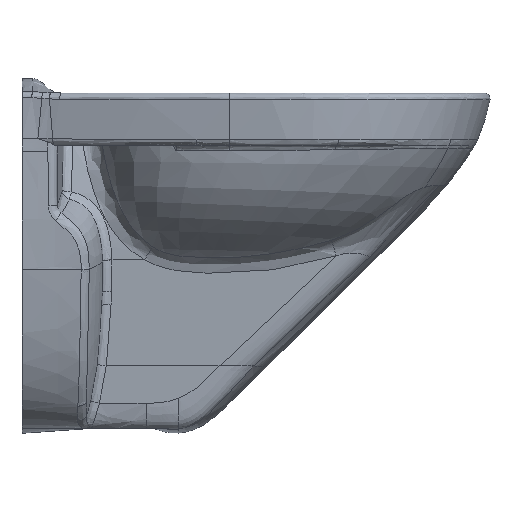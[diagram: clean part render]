
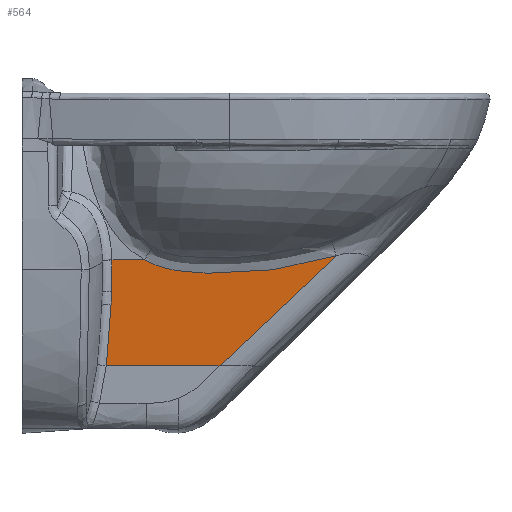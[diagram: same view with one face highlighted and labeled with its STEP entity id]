
A CAD part, left-side view. The second image highlights one B-rep face of the part: STEP entity #564.
In plain terms, the highlighted free-form (B-spline) face has degree [1, 1] with [2, 2] control points.
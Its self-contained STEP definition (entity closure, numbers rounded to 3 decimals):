
#274=FACE_OUTER_BOUND('',#1004,.T.);
#564=ADVANCED_FACE('',(#274),#822,.T.);
#822=B_SPLINE_SURFACE_WITH_KNOTS('',1,1,((#19571,#19572),(#19573,#19574)),
 .UNSPECIFIED.,.F.,.F.,.F.,(2,2),(2,2),(0.,1.),(0.,1.),.UNSPECIFIED.);
#1004=EDGE_LOOP('',(#1589,#1590,#1591,#1592,#1593,#1594,#1595,#1596));
#1589=ORIENTED_EDGE('',*,*,#3379,.F.);
#1590=ORIENTED_EDGE('',*,*,#3381,.T.);
#1591=ORIENTED_EDGE('',*,*,#3382,.T.);
#1592=ORIENTED_EDGE('',*,*,#3383,.T.);
#1593=ORIENTED_EDGE('',*,*,#3384,.T.);
#1594=ORIENTED_EDGE('',*,*,#3371,.F.);
#1595=ORIENTED_EDGE('',*,*,#3385,.T.);
#1596=ORIENTED_EDGE('',*,*,#3386,.T.);
#2857=VERTEX_POINT('',#19369);
#2858=VERTEX_POINT('',#19370);
#2863=VERTEX_POINT('',#19431);
#2864=VERTEX_POINT('',#19436);
#2865=VERTEX_POINT('',#19502);
#2866=VERTEX_POINT('',#19507);
#2867=VERTEX_POINT('',#19512);
#2868=VERTEX_POINT('',#19532);
#3371=EDGE_CURVE('',#2857,#2858,#4091,.T.);
#3379=EDGE_CURVE('',#2863,#2864,#4099,.T.);
#3381=EDGE_CURVE('',#2863,#2865,#4101,.T.);
#3382=EDGE_CURVE('',#2865,#2866,#4102,.T.);
#3383=EDGE_CURVE('',#2866,#2867,#4103,.T.);
#3384=EDGE_CURVE('',#2867,#2858,#4104,.T.);
#3385=EDGE_CURVE('',#2857,#2868,#4105,.T.);
#3386=EDGE_CURVE('',#2868,#2864,#4106,.T.);
#4091=B_SPLINE_CURVE_WITH_KNOTS('',1,(#19367,#19368),.UNSPECIFIED.,.F.,
 .F.,(2,2),(0.,1.),.UNSPECIFIED.);
#4099=B_SPLINE_CURVE_WITH_KNOTS('',3,(#19432,#19433,#19434,#19435),
 .UNSPECIFIED.,.F.,.F.,(4,4),(0.,1.),.UNSPECIFIED.);
#4101=B_SPLINE_CURVE_WITH_KNOTS('',3,(#19498,#19499,#19500,#19501),
 .UNSPECIFIED.,.F.,.F.,(4,4),(0.,1.),.UNSPECIFIED.);
#4102=B_SPLINE_CURVE_WITH_KNOTS('',3,(#19503,#19504,#19505,#19506),
 .UNSPECIFIED.,.F.,.F.,(4,4),(0.,1.),.UNSPECIFIED.);
#4103=B_SPLINE_CURVE_WITH_KNOTS('',3,(#19508,#19509,#19510,#19511),
 .UNSPECIFIED.,.F.,.F.,(4,4),(0.,1.),.UNSPECIFIED.);
#4104=B_SPLINE_CURVE_WITH_KNOTS('',3,(#19513,#19514,#19515,#19516,#19517,
#19518),.UNSPECIFIED.,.F.,.F.,(4,2,4),(0.,0.5,1.),.UNSPECIFIED.);
#4105=B_SPLINE_CURVE_WITH_KNOTS('',3,(#19519,#19520,#19521,#19522,#19523,
#19524,#19525,#19526,#19527,#19528,#19529,#19530,#19531),.UNSPECIFIED.,
 .F.,.F.,(4,1,1,1,1,1,2,2,4),(0.,0.25,0.375,0.438,
0.469,0.484,0.492,0.5,
1.),.UNSPECIFIED.);
#4106=B_SPLINE_CURVE_WITH_KNOTS('',3,(#19533,#19534,#19535,#19536,#19537,
#19538,#19539,#19540,#19541,#19542,#19543,#19544,#19545,#19546,#19547,#19548,
#19549,#19550,#19551,#19552,#19553,#19554,#19555,#19556,#19557,#19558,#19559,
#19560,#19561,#19562,#19563,#19564,#19565,#19566,#19567,#19568,#19569,#19570),
 .UNSPECIFIED.,.F.,.F.,(4,1,2,2,1,1,1,2,2,1,1,1,1,1,2,2,1,1,1,2,2,1,1,2,
2,4),(0.,0.125,0.188,0.25,0.375,
0.438,0.469,0.484,0.5,
0.625,0.688,0.719,0.734,
0.742,0.746,0.75,0.781,
0.797,0.805,0.809,0.813,0.844,
0.859,0.867,0.875,1.),.UNSPECIFIED.);
#19367=CARTESIAN_POINT('',(-48.523,-207.363,-285.417));
#19368=CARTESIAN_POINT('',(-48.523,-88.327,-285.417));
#19369=CARTESIAN_POINT('',(-48.523,-207.363,-285.417));
#19370=CARTESIAN_POINT('',(-48.523,-88.327,-285.417));
#19431=CARTESIAN_POINT('',(-57.513,-94.245,-174.596));
#19432=CARTESIAN_POINT('',(-57.513,-94.245,-174.596));
#19433=CARTESIAN_POINT('',(-57.513,-105.655,-174.596));
#19434=CARTESIAN_POINT('',(-57.513,-117.065,-174.596));
#19435=CARTESIAN_POINT('',(-57.513,-128.476,-174.596));
#19436=CARTESIAN_POINT('',(-57.513,-128.476,-174.596));
#19498=CARTESIAN_POINT('',(-57.513,-94.245,-174.596));
#19499=CARTESIAN_POINT('',(-57.511,-94.246,-174.62));
#19500=CARTESIAN_POINT('',(-57.509,-94.247,-174.643));
#19501=CARTESIAN_POINT('',(-57.507,-94.248,-174.667));
#19502=CARTESIAN_POINT('',(-57.507,-94.248,-174.667));
#19503=CARTESIAN_POINT('',(-57.507,-94.248,-174.667));
#19504=CARTESIAN_POINT('',(-56.603,-94.818,-185.815));
#19505=CARTESIAN_POINT('',(-55.699,-94.37,-196.951));
#19506=CARTESIAN_POINT('',(-54.796,-93.859,-208.087));
#19507=CARTESIAN_POINT('',(-54.796,-93.859,-208.087));
#19508=CARTESIAN_POINT('',(-54.796,-93.859,-208.087));
#19509=CARTESIAN_POINT('',(-54.42,-93.646,-212.729));
#19510=CARTESIAN_POINT('',(-54.043,-93.408,-217.369));
#19511=CARTESIAN_POINT('',(-53.667,-93.162,-222.009));
#19512=CARTESIAN_POINT('',(-53.667,-93.162,-222.009));
#19513=CARTESIAN_POINT('',(-53.667,-93.162,-222.009));
#19514=CARTESIAN_POINT('',(-52.808,-92.602,-232.596));
#19515=CARTESIAN_POINT('',(-51.949,-92.025,-243.182));
#19516=CARTESIAN_POINT('',(-50.233,-90.57,-264.336));
#19517=CARTESIAN_POINT('',(-49.376,-89.662,-274.897));
#19518=CARTESIAN_POINT('',(-48.523,-88.327,-285.417));
#19519=CARTESIAN_POINT('',(-48.523,-207.363,-285.417));
#19520=CARTESIAN_POINT('',(-49.169,-216.364,-277.448));
#19521=CARTESIAN_POINT('',(-50.229,-230.828,-264.381));
#19522=CARTESIAN_POINT('',(-51.624,-249.383,-247.186));
#19523=CARTESIAN_POINT('',(-52.361,-259.081,-238.101));
#19524=CARTESIAN_POINT('',(-52.74,-264.036,-233.437));
#19525=CARTESIAN_POINT('',(-52.931,-266.539,-231.074));
#19526=CARTESIAN_POINT('',(-53.014,-267.617,-230.055));
#19527=CARTESIAN_POINT('',(-53.069,-268.338,-229.374));
#19528=CARTESIAN_POINT('',(-53.099,-268.722,-229.011));
#19529=CARTESIAN_POINT('',(-54.785,-290.697,-208.221));
#19530=CARTESIAN_POINT('',(-56.364,-310.743,-188.765));
#19531=CARTESIAN_POINT('',(-57.86,-329.197,-170.324));
#19532=CARTESIAN_POINT('',(-57.86,-329.197,-170.324));
#19533=CARTESIAN_POINT('',(-57.86,-329.197,-170.324));
#19534=CARTESIAN_POINT('',(-57.653,-321.08,-172.875));
#19535=CARTESIAN_POINT('',(-57.374,-308.771,-176.31));
#19536=CARTESIAN_POINT('',(-57.143,-296.264,-179.158));
#19537=CARTESIAN_POINT('',(-56.999,-287.881,-180.926));
#19538=CARTESIAN_POINT('',(-56.932,-283.619,-181.754));
#19539=CARTESIAN_POINT('',(-56.751,-271.057,-183.988));
#19540=CARTESIAN_POINT('',(-56.602,-258.424,-185.83));
#19541=CARTESIAN_POINT('',(-56.483,-243.561,-187.291));
#19542=CARTESIAN_POINT('',(-56.438,-236.099,-187.849));
#19543=CARTESIAN_POINT('',(-56.421,-232.894,-188.052));
#19544=CARTESIAN_POINT('',(-56.411,-230.756,-188.179));
#19545=CARTESIAN_POINT('',(-56.407,-229.743,-188.235));
#19546=CARTESIAN_POINT('',(-56.364,-219.599,-188.758));
#19547=CARTESIAN_POINT('',(-56.34,-206.438,-189.053));
#19548=CARTESIAN_POINT('',(-56.369,-191.722,-188.693));
#19549=CARTESIAN_POINT('',(-56.398,-184.524,-188.337));
#19550=CARTESIAN_POINT('',(-56.416,-180.964,-188.115));
#19551=CARTESIAN_POINT('',(-56.426,-179.195,-187.993));
#19552=CARTESIAN_POINT('',(-56.431,-178.438,-187.938));
#19553=CARTESIAN_POINT('',(-56.434,-177.935,-187.901));
#19554=CARTESIAN_POINT('',(-56.435,-177.719,-187.885));
#19555=CARTESIAN_POINT('',(-56.451,-175.13,-187.689));
#19556=CARTESIAN_POINT('',(-56.475,-171.817,-187.389));
#19557=CARTESIAN_POINT('',(-56.509,-168.193,-186.969));
#19558=CARTESIAN_POINT('',(-56.528,-166.442,-186.741));
#19559=CARTESIAN_POINT('',(-56.536,-165.704,-186.64));
#19560=CARTESIAN_POINT('',(-56.542,-165.215,-186.572));
#19561=CARTESIAN_POINT('',(-56.544,-165.009,-186.542));
#19562=CARTESIAN_POINT('',(-56.573,-162.506,-186.18));
#19563=CARTESIAN_POINT('',(-56.618,-159.266,-185.633));
#19564=CARTESIAN_POINT('',(-56.679,-155.656,-184.882));
#19565=CARTESIAN_POINT('',(-56.707,-154.144,-184.537));
#19566=CARTESIAN_POINT('',(-56.726,-153.145,-184.301));
#19567=CARTESIAN_POINT('',(-56.735,-152.698,-184.193));
#19568=CARTESIAN_POINT('',(-56.921,-143.519,-181.892));
#19569=CARTESIAN_POINT('',(-57.177,-135.625,-178.739));
#19570=CARTESIAN_POINT('',(-57.513,-128.477,-174.596));
#19571=CARTESIAN_POINT('',(-48.523,-330.888,-285.417));
#19572=CARTESIAN_POINT('',(-48.523,10.041,-285.417));
#19573=CARTESIAN_POINT('',(-57.916,-330.888,-169.633));
#19574=CARTESIAN_POINT('',(-57.916,10.041,-169.633));
